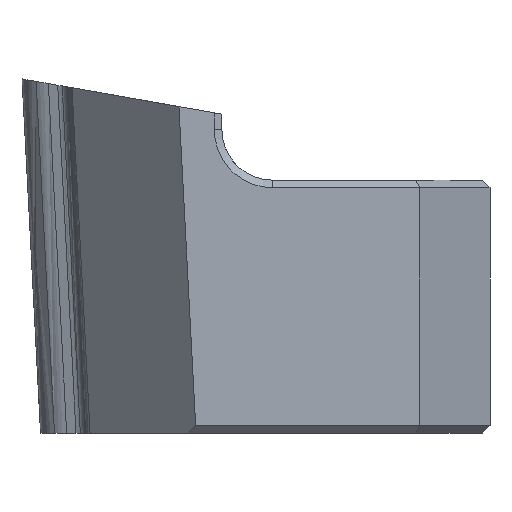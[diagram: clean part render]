
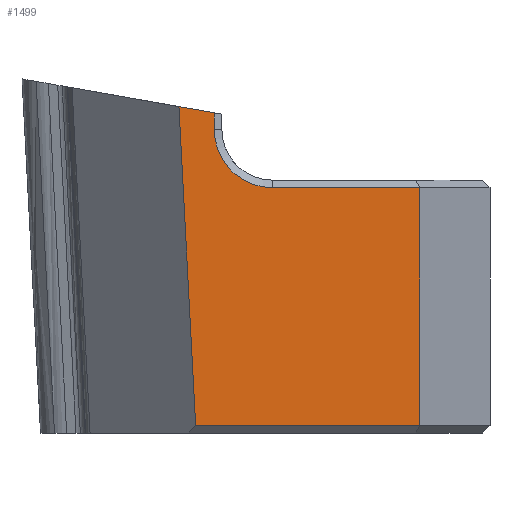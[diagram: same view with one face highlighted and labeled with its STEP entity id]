
A CAD part, left-side view. The second image highlights one B-rep face of the part: STEP entity #1499.
In plain terms, the highlighted planar face has unit normal (-1, 0, 0).
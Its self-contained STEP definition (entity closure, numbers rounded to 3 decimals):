
#5 = PLANE ( 'NONE',  #709 ) ;
#17 = DIRECTION ( 'NONE',  ( 0., 0., -1. ) ) ;
#67 = CARTESIAN_POINT ( 'NONE',  ( -6.55, -4.278, 5.906 ) ) ;
#100 = VECTOR ( 'NONE', #909, 1000. ) ;
#178 = ORIENTED_EDGE ( 'NONE', *, *, #418, .F. ) ;
#186 = VERTEX_POINT ( 'NONE', #67 ) ;
#192 = VECTOR ( 'NONE', #1622, 1000. ) ;
#208 = VERTEX_POINT ( 'NONE', #336 ) ;
#214 = VERTEX_POINT ( 'NONE', #1110 ) ;
#261 = DIRECTION ( 'NONE',  ( 0., -0.985, -0.174 ) ) ;
#336 = CARTESIAN_POINT ( 'NONE',  ( -6.55, -4.939, -6.7 ) ) ;
#352 = CIRCLE ( 'NONE', #1079, 2.3 ) ;
#360 = DIRECTION ( 'NONE',  ( 0., 0., -1. ) ) ;
#365 = DIRECTION ( 'NONE',  ( 0., -0.052, -0.999 ) ) ;
#393 = CARTESIAN_POINT ( 'NONE',  ( -6.55, -4.221, 2.7 ) ) ;
#405 = EDGE_CURVE ( 'NONE', #208, #728, #1124, .T. ) ;
#418 = EDGE_CURVE ( 'NONE', #214, #728, #1001, .T. ) ;
#431 = VERTEX_POINT ( 'NONE', #627 ) ;
#456 = EDGE_CURVE ( 'NONE', #186, #208, #1005, .T. ) ;
#493 = DIRECTION ( 'NONE',  ( 0., -1., 0. ) ) ;
#511 = EDGE_CURVE ( 'NONE', #214, #431, #1545, .T. ) ;
#528 = LINE ( 'NONE', #1417, #1422 ) ;
#536 = CARTESIAN_POINT ( 'NONE',  ( -6.55, -4.221, 7. ) ) ;
#600 = LINE ( 'NONE', #1104, #192 ) ;
#627 = CARTESIAN_POINT ( 'NONE',  ( -6.55, -7.975, 2.7 ) ) ;
#657 = EDGE_CURVE ( 'NONE', #431, #1378, #352, .T. ) ;
#675 = CARTESIAN_POINT ( 'NONE',  ( -6.55, -7.975, 5. ) ) ;
#709 = AXIS2_PLACEMENT_3D ( 'NONE', #536, #1037, #1557 ) ;
#728 = VERTEX_POINT ( 'NONE', #1550 ) ;
#756 = VECTOR ( 'NONE', #365, 1000. ) ;
#784 = FACE_OUTER_BOUND ( 'NONE', #944, .T. ) ;
#833 = ORIENTED_EDGE ( 'NONE', *, *, #405, .T. ) ;
#899 = CARTESIAN_POINT ( 'NONE',  ( -6.55, -5.675, 5. ) ) ;
#908 = EDGE_CURVE ( 'NONE', #1378, #1067, #600, .T. ) ;
#909 = DIRECTION ( 'NONE',  ( 0., 1., 0. ) ) ;
#944 = EDGE_LOOP ( 'NONE', ( #1024, #1484, #1512, #1132, #833, #178, #1489 ) ) ;
#1001 = LINE ( 'NONE', #1514, #1181 ) ;
#1005 = LINE ( 'NONE', #1520, #756 ) ;
#1024 = ORIENTED_EDGE ( 'NONE', *, *, #657, .T. ) ;
#1037 = DIRECTION ( 'NONE',  ( 1., 0., 0. ) ) ;
#1067 = VERTEX_POINT ( 'NONE', #1576 ) ;
#1079 = AXIS2_PLACEMENT_3D ( 'NONE', #675, #1175, #17 ) ;
#1104 = CARTESIAN_POINT ( 'NONE',  ( -6.55, -5.675, 7. ) ) ;
#1110 = CARTESIAN_POINT ( 'NONE',  ( -6.55, -13.806, 2.7 ) ) ;
#1124 = LINE ( 'NONE', #1643, #1397 ) ;
#1132 = ORIENTED_EDGE ( 'NONE', *, *, #456, .T. ) ;
#1175 = DIRECTION ( 'NONE',  ( 1., 0., 0. ) ) ;
#1181 = VECTOR ( 'NONE', #360, 1000. ) ;
#1378 = VERTEX_POINT ( 'NONE', #899 ) ;
#1397 = VECTOR ( 'NONE', #493, 1000. ) ;
#1417 = CARTESIAN_POINT ( 'NONE',  ( -6.55, 1.925, 7. ) ) ;
#1422 = VECTOR ( 'NONE', #261, 1000. ) ;
#1484 = ORIENTED_EDGE ( 'NONE', *, *, #908, .T. ) ;
#1488 = EDGE_CURVE ( 'NONE', #186, #1067, #528, .T. ) ;
#1489 = ORIENTED_EDGE ( 'NONE', *, *, #511, .T. ) ;
#1499 = ADVANCED_FACE ( 'NONE', ( #784 ), #5, .F. ) ;
#1512 = ORIENTED_EDGE ( 'NONE', *, *, #1488, .F. ) ;
#1514 = CARTESIAN_POINT ( 'NONE',  ( -6.55, -13.806, 7. ) ) ;
#1520 = CARTESIAN_POINT ( 'NONE',  ( -6.55, -4.221, 7. ) ) ;
#1545 = LINE ( 'NONE', #393, #100 ) ;
#1550 = CARTESIAN_POINT ( 'NONE',  ( -6.55, -13.806, -6.7 ) ) ;
#1557 = DIRECTION ( 'NONE',  ( 0., 0., -1. ) ) ;
#1576 = CARTESIAN_POINT ( 'NONE',  ( -6.55, -5.675, 5.66 ) ) ;
#1622 = DIRECTION ( 'NONE',  ( 0., 0., 1. ) ) ;
#1643 = CARTESIAN_POINT ( 'NONE',  ( -6.55, -4.221, -6.7 ) ) ;
